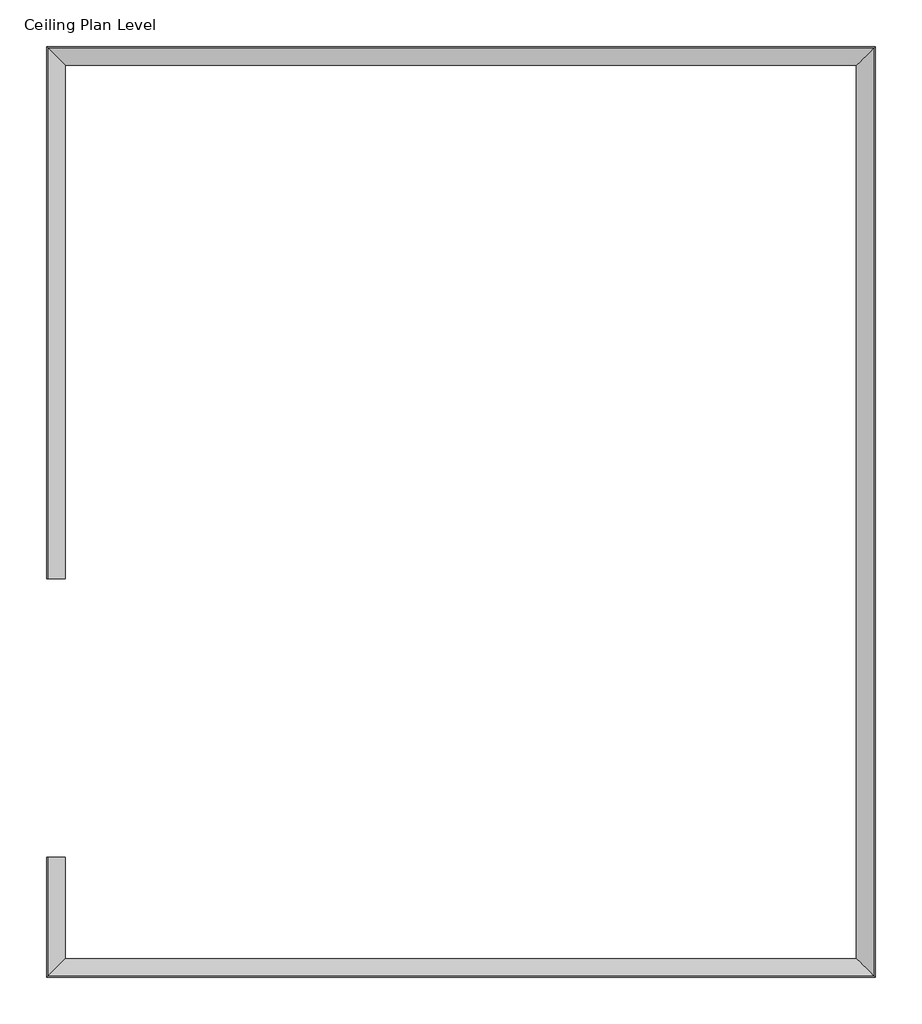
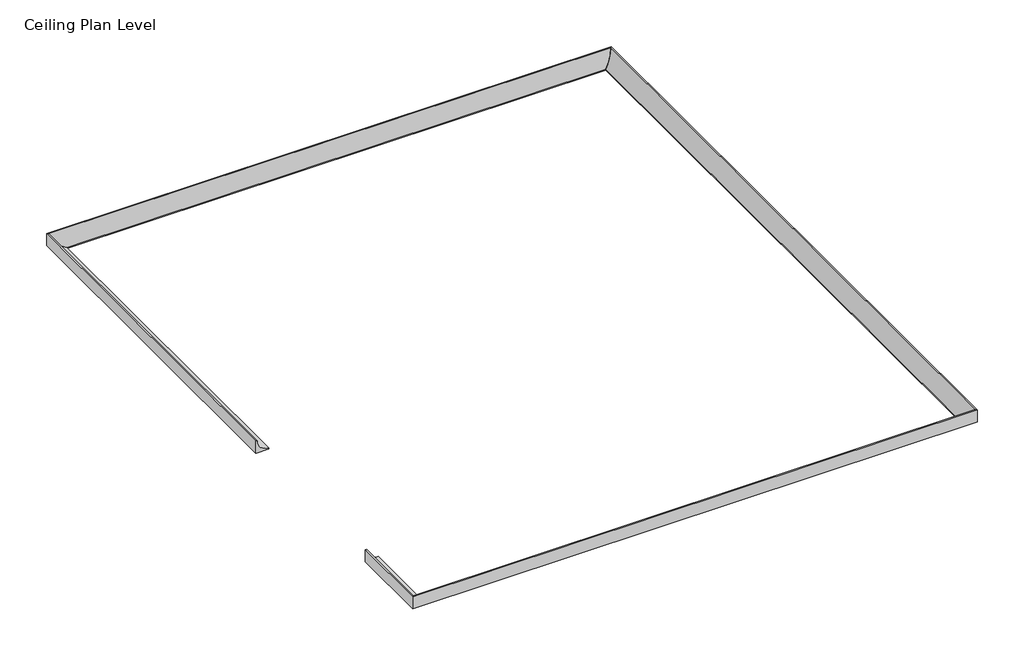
# One storey: 4 proxies.
"""IFC4 building model written with IfcOpenShell, lengths in millimetres."""

from ifc_helpers import new_model, si_unit, frame, origin, place, context, project, spatial, polyline, circle_curve, ellipse_curve, element, save
from ifc_brep_helpers import plane_surface, revolved_surface, advanced_brep

model = new_model("IFC4")

# Units and contexts
model_context = context("Model", 3, world=origin())
ifc_project = project(units=[si_unit("LENGTHUNIT", "METRE", prefix="MILLI")], contexts=[model_context])

# Site, building, storey
site = spatial("IfcSite", under=ifc_project)
building = spatial("IfcBuilding", under=site)
storey = spatial("IfcBuildingStorey", under=building, Name="Ceiling Plan Level", Elevation=0.0)

# Proxies
placement = place(None, origin())
element("IfcBuildingElementProxy", 1, Name="Wall Sweeps", at=placement, inside=storey, context=model_context, shape_type="AdvancedBrep", body=[
    advanced_brep(
    [(913.6343957, -1138.9928651, 0.0), (913.6343957, -1138.9928651, 100.0), (923.6343957, -1138.9928651, 100.0), (1013.6343957, -1138.9928651, 10.0), (1013.6343957, -1138.9928651, 0.0), (913.6343957, -1773.9928651, 0.0), (1013.6343957, -1673.9928651, 0.0), (1013.6343957, -1673.9928651, 10.0), (923.6343957, -1763.9928651, 100.0), (913.6343957, -1773.9928651, 100.0)],
    [
        (0, 1),
        (1, 2),
        (2, 3, circle_curve(frame((1013.6343957, -1138.9928651, 100.0), z_axis=(0.0, -1.0, 0.0), x_axis=(1.0, 0.0, 0.0)), 90.0)),
        (3, 4),
        (4, 0),
        (5, 6),
        (6, 7),
        (7, 8, ellipse_curve(frame((1013.6343957, -1673.9928651, 100.0), z_axis=(-0.707106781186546, 0.7071067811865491, 0.0), x_axis=(-0.7071067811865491, -0.7071067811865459, 0.0)), 127.2792206, 90.0)),
        (8, 9),
        (9, 5),
        (0, 5),
        (9, 1),
        (8, 2),
        (7, 3),
        (6, 4),
    ],
    [
        plane_surface(frame((813.1356395, -1138.9928651, 0.0), z_axis=(0.0, 1.0, 0.0), x_axis=(0.0, 0.0, -1.0))),
        plane_surface(frame((913.6343957, -1773.9928651, -304.8), z_axis=(0.707106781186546, -0.7071067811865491, 0.0), x_axis=(0.7071067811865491, 0.707106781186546, 0.0))),
        plane_surface(frame((913.6343957, -1138.9928651, 0.0), z_axis=(-1.0, 0.0, 0.0), x_axis=(0.0, -1.0, 0.0))),
        plane_surface(frame((913.6343957, -1138.9928651, 100.0), z_axis=(0.0, 0.0, 1.0), x_axis=(0.0, -1.0, 0.0))),
        revolved_surface(polyline([(1103.6343957, -1763.9928651, 100.0), (1103.6343957, -1138.9928651, 100.0)]), (1013.6343957, -1138.9928651, 100.0), (0.0, -1.0, 0.0)),
        plane_surface(frame((1013.6343957, -1138.9928651, 10.0), z_axis=(1.0, 0.0, 0.0), x_axis=(0.0, -1.0, 0.0))),
        plane_surface(frame((1013.6343957, -1138.9928651, 0.0), z_axis=(0.0, 0.0, -1.0), x_axis=(0.0, -1.0, 0.0))),
    ],
    [
        (0, [[1, 2, 3, 4, 5]]),
        (1, [[6, 7, 8, 9, 10]]),
        (2, [[-1, 11, -10, 12]]),
        (3, [[-2, -12, -9, 13]]),
        (4, [[-3, -13, -8, 14]]),
        (5, [[-4, -14, -7, 15]]),
        (6, [[-5, -15, -6, -11]]),
    ],
),
    advanced_brep(
    [(913.6343957, 3138.5069144, 0.0), (913.6343957, 3138.5069144, 100.0), (923.6343957, 3128.5069144, 100.0), (1013.6343957, 3038.5069144, 10.0), (1013.6343957, 3038.5069144, 0.0), (913.6343957, 331.0071349, 0.0), (1013.6343957, 331.0071349, 0.0), (1013.6343957, 331.0071349, 10.0), (923.6343957, 331.0071349, 100.0), (913.6343957, 331.0071349, 100.0)],
    [
        (0, 1),
        (1, 2),
        (2, 3, ellipse_curve(frame((1013.6343957, 3038.5069144, 100.0), z_axis=(-0.707106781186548, -0.7071067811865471, 0.0), x_axis=(0.7071067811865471, -0.7071067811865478, 0.0)), 127.2792206, 90.0)),
        (3, 4),
        (4, 0),
        (5, 6),
        (6, 7),
        (7, 8, circle_curve(frame((1013.6343957, 331.0071349, 100.0), z_axis=(0.0, 1.0, 0.0), x_axis=(1.0, 0.0, 0.0)), 90.0)),
        (8, 9),
        (9, 5),
        (0, 5),
        (9, 1),
        (8, 2),
        (7, 3),
        (6, 4),
    ],
    [
        plane_surface(frame((913.6343957, 3138.5069144, -304.8), z_axis=(0.707106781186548, 0.7071067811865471, 0.0), x_axis=(0.7071067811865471, -0.707106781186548, 0.0))),
        plane_surface(frame((813.1356395, 331.0071349, 0.0), z_axis=(0.0, -1.0, 0.0), x_axis=(0.0, 0.0, -1.0))),
        plane_surface(frame((913.6343957, 3138.5069144, 0.0), z_axis=(-1.0, 0.0, 0.0), x_axis=(0.0, -1.0, 0.0))),
        plane_surface(frame((913.6343957, 3138.5069144, 100.0), z_axis=(0.0, 0.0, 1.0), x_axis=(0.0, -1.0, 0.0))),
        revolved_surface(polyline([(1103.6343957, 331.0071349, 100.0), (1103.6343957, 3128.5069144, 100.0)]), (1013.6343957, 3138.5069144, 100.0), (0.0, -1.0, 0.0)),
        plane_surface(frame((1013.6343957, 3038.5069144, 10.0), z_axis=(1.0, 0.0, 0.0), x_axis=(0.0, -1.0, 0.0))),
        plane_surface(frame((1013.6343957, 3038.5069144, 0.0), z_axis=(0.0, 0.0, -1.0), x_axis=(0.0, -1.0, 0.0))),
    ],
    [
        (0, [[1, 2, 3, 4, 5]]),
        (1, [[6, 7, 8, 9, 10]]),
        (2, [[-1, 11, -10, 12]]),
        (3, [[-2, -12, -9, 13]]),
        (4, [[-3, -13, -8, 14]]),
        (5, [[-4, -14, -7, 15]]),
        (6, [[-5, -15, -6, -11]]),
    ],
),
])
element("IfcBuildingElementProxy", 2, Name="Wall Sweeps", at=placement, inside=storey, context=model_context, shape_type="AdvancedBrep", body=[
    advanced_brep(
    [(913.6343957, -1773.9928651, 0.0), (913.6343957, -1773.9928651, 100.0), (923.6343957, -1763.9928651, 100.0), (1013.6343957, -1673.9928651, 10.0), (1013.6343957, -1673.9928651, 0.0), (5290.2686789, -1773.9928651, 0.0), (5190.2686789, -1673.9928651, 0.0), (5190.2686789, -1673.9928651, 10.0), (5280.2686789, -1763.9928651, 100.0), (5290.2686789, -1773.9928651, 100.0)],
    [
        (0, 1),
        (1, 2),
        (2, 3, ellipse_curve(frame((1013.6343957, -1673.9928651, 100.0), z_axis=(0.707106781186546, -0.7071067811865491, 0.0), x_axis=(0.707106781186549, 0.707106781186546, 0.0)), 127.2792206, 90.0)),
        (3, 4),
        (4, 0),
        (5, 6),
        (6, 7),
        (7, 8, ellipse_curve(frame((5190.2686789, -1673.9928651, 100.0), z_axis=(-0.7071067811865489, -0.7071067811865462, 0.0), x_axis=(0.7071067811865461, -0.7071067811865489, 0.0)), 127.2792206, 90.0)),
        (8, 9),
        (9, 5),
        (0, 5),
        (9, 1),
        (8, 2),
        (7, 3),
        (6, 4),
    ],
    [
        plane_surface(frame((913.6343957, -1773.9928651, -304.8), z_axis=(-0.707106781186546, 0.7071067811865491, 0.0), x_axis=(0.7071067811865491, 0.707106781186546, 0.0))),
        plane_surface(frame((5290.2686789, -1773.9928651, -304.8), z_axis=(0.7071067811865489, 0.7071067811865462, 0.0), x_axis=(-0.7071067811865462, 0.7071067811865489, 0.0))),
        plane_surface(frame((913.6343957, -1773.9928651, 0.0), z_axis=(0.0, -1.0, 0.0), x_axis=(1.0, 0.0, 0.0))),
        plane_surface(frame((913.6343957, -1773.9928651, 100.0), z_axis=(0.0, 0.0, 1.0), x_axis=(1.0, 0.0, 0.0))),
        revolved_surface(polyline([(5280.2686789, -1583.9928651, 100.0), (923.6343957, -1583.9928651, 100.0)]), (913.6343957, -1673.9928651, 100.0), (1.0, 0.0, 0.0)),
        plane_surface(frame((1013.6343957, -1673.9928651, 10.0), z_axis=(0.0, 1.0, 0.0), x_axis=(1.0, 0.0, 0.0))),
        plane_surface(frame((1013.6343957, -1673.9928651, 0.0), z_axis=(0.0, 0.0, -1.0), x_axis=(1.0, 0.0, 0.0))),
    ],
    [
        (0, [[1, 2, 3, 4, 5]]),
        (1, [[6, 7, 8, 9, 10]]),
        (2, [[-1, 11, -10, 12]]),
        (3, [[-2, -12, -9, 13]]),
        (4, [[-3, -13, -8, 14]]),
        (5, [[-4, -14, -7, 15]]),
        (6, [[-5, -15, -6, -11]]),
    ],
),
])
element("IfcBuildingElementProxy", 3, Name="Wall Sweeps", at=placement, inside=storey, context=model_context, shape_type="AdvancedBrep", body=[
    advanced_brep(
    [(5290.2686789, -1773.9928651, 0.0), (5290.2686789, -1773.9928651, 100.0), (5280.2686789, -1763.9928651, 100.0), (5190.2686789, -1673.9928651, 10.0), (5190.2686789, -1673.9928651, 0.0), (5290.2686789, 3138.5069144, 0.0), (5190.2686789, 3038.5069144, 0.0), (5190.2686789, 3038.5069144, 10.0), (5280.2686789, 3128.5069144, 100.0), (5290.2686789, 3138.5069144, 100.0)],
    [
        (0, 1),
        (1, 2),
        (2, 3, ellipse_curve(frame((5190.2686789, -1673.9928651, 100.0), z_axis=(0.7071067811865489, 0.7071067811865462, 0.0), x_axis=(-0.7071067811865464, 0.7071067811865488, 0.0)), 127.2792206, 90.0)),
        (3, 4),
        (4, 0),
        (5, 6),
        (6, 7),
        (7, 8, ellipse_curve(frame((5190.2686789, 3038.5069144, 100.0), z_axis=(0.7071067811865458, -0.7071067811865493, 0.0), x_axis=(0.7071067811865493, 0.7071067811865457, 0.0)), 127.2792206, 90.0)),
        (8, 9),
        (9, 5),
        (0, 5),
        (9, 1),
        (8, 2),
        (7, 3),
        (6, 4),
    ],
    [
        plane_surface(frame((5290.2686789, -1773.9928651, -304.8), z_axis=(-0.7071067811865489, -0.7071067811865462, 0.0), x_axis=(-0.7071067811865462, 0.7071067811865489, 0.0))),
        plane_surface(frame((5290.2686789, 3138.5069144, -304.8), z_axis=(-0.7071067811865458, 0.7071067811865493, 0.0), x_axis=(-0.7071067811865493, -0.7071067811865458, 0.0))),
        plane_surface(frame((5290.2686789, -1773.9928651, 0.0), z_axis=(1.0, 0.0, 0.0), x_axis=(0.0, 1.0, 0.0))),
        plane_surface(frame((5290.2686789, -1773.9928651, 100.0), z_axis=(0.0, 0.0, 1.0), x_axis=(0.0, 1.0, 0.0))),
        revolved_surface(polyline([(5100.2686789, 3128.5069144, 100.0), (5100.2686789, -1763.9928651, 100.0)]), (5190.2686789, -1773.9928651, 100.0), (0.0, 1.0, 0.0)),
        plane_surface(frame((5190.2686789, -1673.9928651, 10.0), z_axis=(-1.0, 0.0, 0.0), x_axis=(0.0, 1.0, 0.0))),
        plane_surface(frame((5190.2686789, -1673.9928651, 0.0), z_axis=(0.0, 0.0, -1.0), x_axis=(0.0, 1.0, 0.0))),
    ],
    [
        (0, [[1, 2, 3, 4, 5]]),
        (1, [[6, 7, 8, 9, 10]]),
        (2, [[-1, 11, -10, 12]]),
        (3, [[-2, -12, -9, 13]]),
        (4, [[-3, -13, -8, 14]]),
        (5, [[-4, -14, -7, 15]]),
        (6, [[-5, -15, -6, -11]]),
    ],
),
])
element("IfcBuildingElementProxy", 4, Name="Wall Sweeps", at=placement, inside=storey, context=model_context, shape_type="AdvancedBrep", body=[
    advanced_brep(
    [(5290.2686789, 3138.5069144, 0.0), (5290.2686789, 3138.5069144, 100.0), (5280.2686789, 3128.5069144, 100.0), (5190.2686789, 3038.5069144, 10.0), (5190.2686789, 3038.5069144, 0.0), (913.6343957, 3138.5069144, 0.0), (1013.6343957, 3038.5069144, 0.0), (1013.6343957, 3038.5069144, 10.0), (923.6343957, 3128.5069144, 100.0), (913.6343957, 3138.5069144, 100.0)],
    [
        (0, 1),
        (1, 2),
        (2, 3, ellipse_curve(frame((5190.2686789, 3038.5069144, 100.0), z_axis=(-0.7071067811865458, 0.7071067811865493, 0.0), x_axis=(-0.7071067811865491, -0.7071067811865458, 0.0)), 127.2792206, 90.0)),
        (3, 4),
        (4, 0),
        (5, 6),
        (6, 7),
        (7, 8, ellipse_curve(frame((1013.6343957, 3038.5069144, 100.0), z_axis=(0.707106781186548, 0.7071067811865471, 0.0), x_axis=(-0.707106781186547, 0.707106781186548, 0.0)), 127.2792206, 90.0)),
        (8, 9),
        (9, 5),
        (0, 5),
        (9, 1),
        (8, 2),
        (7, 3),
        (6, 4),
    ],
    [
        plane_surface(frame((5290.2686789, 3138.5069144, -304.8), z_axis=(0.7071067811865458, -0.7071067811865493, 0.0), x_axis=(-0.7071067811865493, -0.7071067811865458, 0.0))),
        plane_surface(frame((913.6343957, 3138.5069144, -304.8), z_axis=(-0.707106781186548, -0.7071067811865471, 0.0), x_axis=(0.7071067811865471, -0.707106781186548, 0.0))),
        plane_surface(frame((5290.2686789, 3138.5069144, 0.0), z_axis=(0.0, 1.0, 0.0), x_axis=(-1.0, 0.0, 0.0))),
        plane_surface(frame((5290.2686789, 3138.5069144, 100.0), z_axis=(0.0, 0.0, 1.0), x_axis=(-1.0, 0.0, 0.0))),
        revolved_surface(polyline([(923.6343956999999, 2948.5069144, 100.0), (5280.2686789, 2948.5069144, 100.0)]), (5290.2686789, 3038.5069144, 100.0), (-1.0, 0.0, 0.0)),
        plane_surface(frame((5190.2686789, 3038.5069144, 10.0), z_axis=(0.0, -1.0, 0.0), x_axis=(-1.0, 0.0, 0.0))),
        plane_surface(frame((5190.2686789, 3038.5069144, 0.0), z_axis=(0.0, 0.0, -1.0), x_axis=(-1.0, 0.0, 0.0))),
    ],
    [
        (0, [[1, 2, 3, 4, 5]]),
        (1, [[6, 7, 8, 9, 10]]),
        (2, [[-1, 11, -10, 12]]),
        (3, [[-2, -12, -9, 13]]),
        (4, [[-3, -13, -8, 14]]),
        (5, [[-4, -14, -7, 15]]),
        (6, [[-5, -15, -6, -11]]),
    ],
),
])

save(model, "model.ifc")
